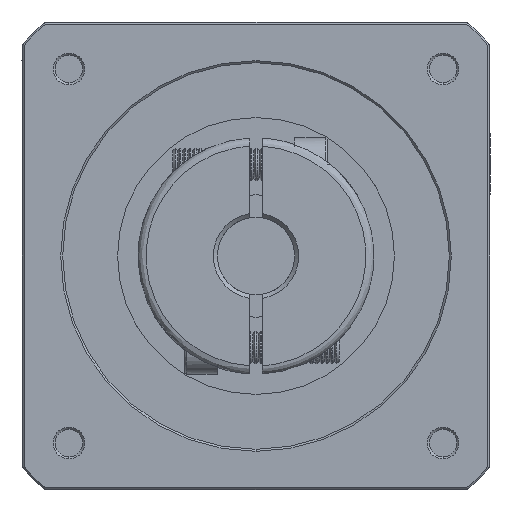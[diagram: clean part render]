
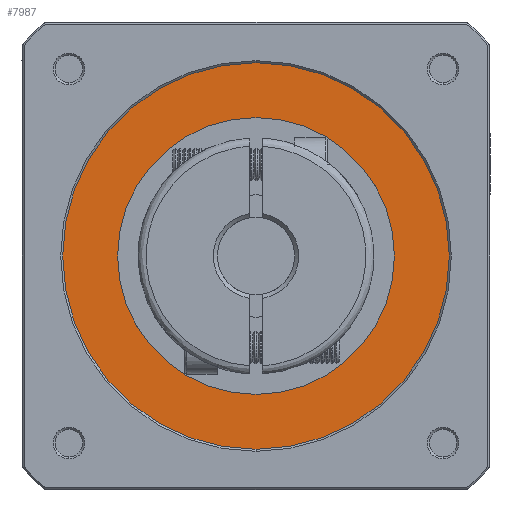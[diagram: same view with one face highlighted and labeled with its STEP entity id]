
A CAD part, front view. The second image highlights one B-rep face of the part: STEP entity #7987.
In plain terms, the highlighted planar face has unit normal (0, 1, 0).
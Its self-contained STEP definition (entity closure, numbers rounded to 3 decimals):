
#1005 = CARTESIAN_POINT ( 'NONE',  ( 0., -131.611, 0. ) ) ;
#3378 = CIRCLE ( 'NONE', #76377, 34. ) ;
#5030 = AXIS2_PLACEMENT_3D ( 'NONE', #35038, #82667, #41915 ) ;
#5041 = DIRECTION ( 'NONE',  ( 0., -1., 0. ) ) ;
#5371 = AXIS2_PLACEMENT_3D ( 'NONE', #45767, #5041, #52625 ) ;
#6572 = CARTESIAN_POINT ( 'NONE',  ( 0., -131.611, 0. ) ) ;
#7876 = DIRECTION ( 'NONE',  ( 0., 0., 1. ) ) ;
#7987 = ADVANCED_FACE ( 'NONE', ( #58194, #56019 ), #48479, .F. ) ;
#13390 = DIRECTION ( 'NONE',  ( 0., 0., -1. ) ) ;
#17307 = CIRCLE ( 'NONE', #20919, 47.5 ) ;
#19395 = CARTESIAN_POINT ( 'NONE',  ( 0., -131.611, 47.5 ) ) ;
#20494 = EDGE_CURVE ( 'NONE', #33702, #86535, #3378, .T. ) ;
#20919 = AXIS2_PLACEMENT_3D ( 'NONE', #6572, #54152, #13390 ) ;
#23955 = CARTESIAN_POINT ( 'NONE',  ( 0., -131.611, 34. ) ) ;
#24005 = VERTEX_POINT ( 'NONE', #46843 ) ;
#24043 = CARTESIAN_POINT ( 'NONE',  ( 0., -131.611, -34. ) ) ;
#26658 = AXIS2_PLACEMENT_3D ( 'NONE', #74630, #33746, #81412 ) ;
#29165 = ORIENTED_EDGE ( 'NONE', *, *, #59637, .F. ) ;
#32143 = CIRCLE ( 'NONE', #26658, 34. ) ;
#33702 = VERTEX_POINT ( 'NONE', #23955 ) ;
#33746 = DIRECTION ( 'NONE',  ( 0., -1., 0. ) ) ;
#35038 = CARTESIAN_POINT ( 'NONE',  ( -48.07, -131.611, -48.07 ) ) ;
#36260 = ORIENTED_EDGE ( 'NONE', *, *, #64273, .F. ) ;
#41915 = DIRECTION ( 'NONE',  ( 1., 0., 0. ) ) ;
#45767 = CARTESIAN_POINT ( 'NONE',  ( 0., -131.611, 0. ) ) ;
#46843 = CARTESIAN_POINT ( 'NONE',  ( 0., -131.611, -47.5 ) ) ;
#47919 = ORIENTED_EDGE ( 'NONE', *, *, #52970, .T. ) ;
#48479 = PLANE ( 'NONE',  #5030 ) ;
#48597 = DIRECTION ( 'NONE',  ( 0., -1., 0. ) ) ;
#52625 = DIRECTION ( 'NONE',  ( 0., 0., -1. ) ) ;
#52970 = EDGE_CURVE ( 'NONE', #86535, #33702, #32143, .T. ) ;
#54152 = DIRECTION ( 'NONE',  ( 0., -1., 0. ) ) ;
#56019 = FACE_OUTER_BOUND ( 'NONE', #82957, .T. ) ;
#58194 = FACE_BOUND ( 'NONE', #59549, .T. ) ;
#59549 = EDGE_LOOP ( 'NONE', ( #77814, #47919 ) ) ;
#59637 = EDGE_CURVE ( 'NONE', #24005, #74274, #77690, .T. ) ;
#64273 = EDGE_CURVE ( 'NONE', #74274, #24005, #17307, .T. ) ;
#74274 = VERTEX_POINT ( 'NONE', #19395 ) ;
#74630 = CARTESIAN_POINT ( 'NONE',  ( 0., -131.611, 0. ) ) ;
#76377 = AXIS2_PLACEMENT_3D ( 'NONE', #1005, #48597, #7876 ) ;
#77690 = CIRCLE ( 'NONE', #5371, 47.5 ) ;
#77814 = ORIENTED_EDGE ( 'NONE', *, *, #20494, .T. ) ;
#81412 = DIRECTION ( 'NONE',  ( 0., 0., 1. ) ) ;
#82667 = DIRECTION ( 'NONE',  ( 0., -1., 0. ) ) ;
#82957 = EDGE_LOOP ( 'NONE', ( #29165, #36260 ) ) ;
#86535 = VERTEX_POINT ( 'NONE', #24043 ) ;
